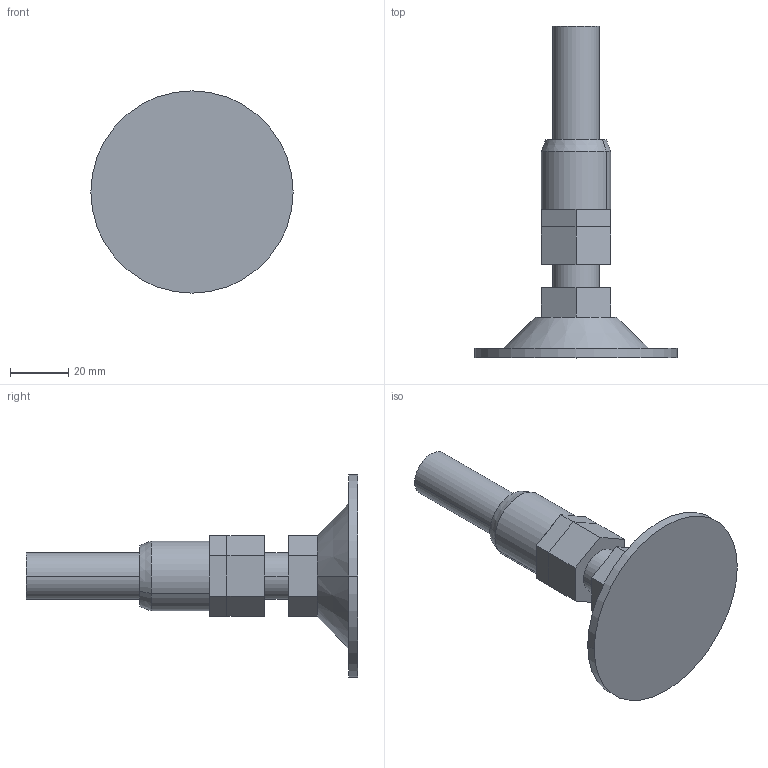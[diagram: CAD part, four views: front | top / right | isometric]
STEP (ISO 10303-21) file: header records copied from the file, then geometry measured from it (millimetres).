
FILE_DESCRIPTION (( 'STEP AP214' ), '1' );
FILE_NAME ('JB-404.step', '2024-02-15T05:11:13', ( 'catia' ), ( 'HP Inc.' ), 'SwSTEP 2.0', 'SolidWorks 2021', '' );
FILE_SCHEMA (( 'AUTOMOTIVE_DESIGN' ));
Length unit declared in the file: millimetre
Products named in the file (4): JB-404; JB-404_轡寶M16; JB-406
Assembly tree (3 placements, depth 2):
  JB-404
    JB-404
    JB-406
    JB-404_轡寶M16
Bounding box: 69.5 x 114 x 69.5 mm (x, y, z)
Volume: 59940 mm3; surface area: 20818.3 mm2
Topology: 3 solids, 3 shells, 47 faces, 106 edges, 68 vertices
Faces by surface type: plane 33, cylinder 10, cone 4
Entity records: 1470 total; most frequent: DIRECTION 244, CARTESIAN_POINT 227, ORIENTED_EDGE 212, EDGE_CURVE 106, AXIS2_PLACEMENT_3D 85, LINE 74, VECTOR 74, VERTEX_POINT 68
